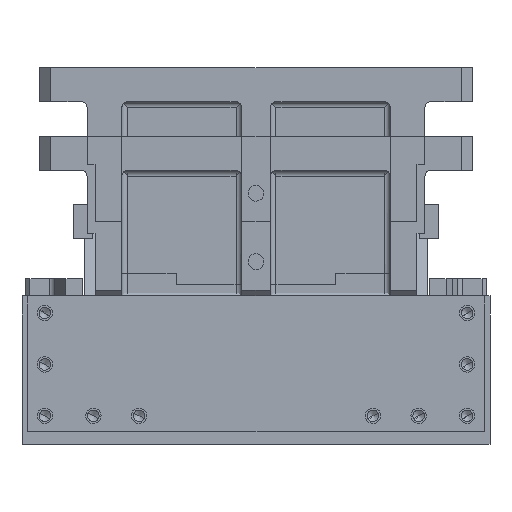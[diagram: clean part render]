
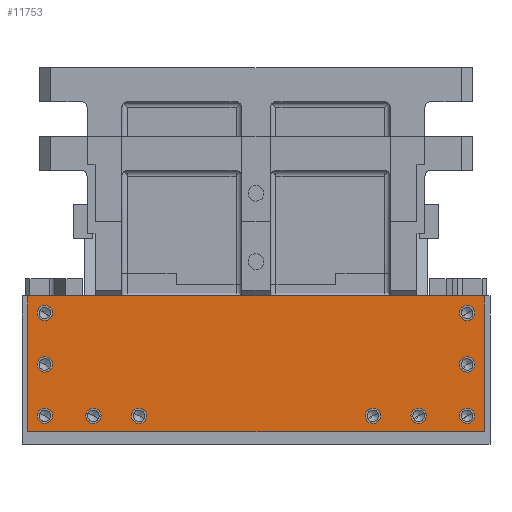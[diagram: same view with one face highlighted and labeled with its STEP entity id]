
A CAD part, left-side view. The second image highlights one B-rep face of the part: STEP entity #11753.
In plain terms, the highlighted planar face has unit normal (-1, 0, 0).
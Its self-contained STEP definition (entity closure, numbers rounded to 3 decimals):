
#9396=CARTESIAN_POINT('Vertex',(-12.,200.,130.)) ;
#9399=CARTESIAN_POINT('Line Origine',(-12.,0.,130.)) ;
#9403=CARTESIAN_POINT('Vertex',(-12.,-200.,130.)) ;
#11530=CARTESIAN_POINT('Vertex',(-12.,148.424,28.236)) ;
#11537=CARTESIAN_POINT('Vertex',(-12.,136.576,21.764)) ;
#11540=CARTESIAN_POINT('Axis2P3D Location',(-12.,142.5,25.)) ;
#11552=CARTESIAN_POINT('Axis2P3D Location',(-12.,0.,0.)) ;
#11557=CARTESIAN_POINT('Line Origine',(-12.,200.,70.5)) ;
#11561=CARTESIAN_POINT('Vertex',(-12.,200.,11.)) ;
#11564=CARTESIAN_POINT('Line Origine',(-12.,0.,11.)) ;
#11568=CARTESIAN_POINT('Vertex',(-12.,-200.,11.)) ;
#11571=CARTESIAN_POINT('Line Origine',(-12.,-200.,70.5)) ;
#11582=CARTESIAN_POINT('Axis2P3D Location',(-12.,-185.,115.)) ;
#11586=CARTESIAN_POINT('Vertex',(-12.,-179.076,111.764)) ;
#11588=CARTESIAN_POINT('Vertex',(-12.,-190.924,118.236)) ;
#11591=CARTESIAN_POINT('Axis2P3D Location',(-12.,-185.,115.)) ;
#11600=CARTESIAN_POINT('Axis2P3D Location',(-12.,-142.5,25.)) ;
#11604=CARTESIAN_POINT('Vertex',(-12.,-148.424,28.236)) ;
#11606=CARTESIAN_POINT('Vertex',(-12.,-136.576,21.764)) ;
#11609=CARTESIAN_POINT('Axis2P3D Location',(-12.,-142.5,25.)) ;
#11618=CARTESIAN_POINT('Axis2P3D Location',(-12.,-102.5,25.)) ;
#11622=CARTESIAN_POINT('Vertex',(-12.,-96.576,21.764)) ;
#11624=CARTESIAN_POINT('Vertex',(-12.,-108.424,28.236)) ;
#11627=CARTESIAN_POINT('Axis2P3D Location',(-12.,-102.5,25.)) ;
#11636=CARTESIAN_POINT('Axis2P3D Location',(-12.,-185.,70.)) ;
#11640=CARTESIAN_POINT('Vertex',(-12.,-190.924,73.236)) ;
#11642=CARTESIAN_POINT('Vertex',(-12.,-179.076,66.764)) ;
#11645=CARTESIAN_POINT('Axis2P3D Location',(-12.,-185.,70.)) ;
#11654=CARTESIAN_POINT('Axis2P3D Location',(-12.,-185.,25.)) ;
#11658=CARTESIAN_POINT('Vertex',(-12.,-190.924,28.236)) ;
#11660=CARTESIAN_POINT('Vertex',(-12.,-179.076,21.764)) ;
#11663=CARTESIAN_POINT('Axis2P3D Location',(-12.,-185.,25.)) ;
#11672=CARTESIAN_POINT('Axis2P3D Location',(-12.,185.,115.)) ;
#11676=CARTESIAN_POINT('Vertex',(-12.,179.076,111.764)) ;
#11678=CARTESIAN_POINT('Vertex',(-12.,190.924,118.236)) ;
#11681=CARTESIAN_POINT('Axis2P3D Location',(-12.,185.,115.)) ;
#11690=CARTESIAN_POINT('Axis2P3D Location',(-12.,185.,70.)) ;
#11694=CARTESIAN_POINT('Vertex',(-12.,179.076,66.764)) ;
#11696=CARTESIAN_POINT('Vertex',(-12.,190.924,73.236)) ;
#11699=CARTESIAN_POINT('Axis2P3D Location',(-12.,185.,70.)) ;
#11708=CARTESIAN_POINT('Axis2P3D Location',(-12.,185.,25.)) ;
#11712=CARTESIAN_POINT('Vertex',(-12.,190.924,28.236)) ;
#11714=CARTESIAN_POINT('Vertex',(-12.,179.076,21.764)) ;
#11717=CARTESIAN_POINT('Axis2P3D Location',(-12.,185.,25.)) ;
#11726=CARTESIAN_POINT('Axis2P3D Location',(-12.,142.5,25.)) ;
#11735=CARTESIAN_POINT('Axis2P3D Location',(-12.,102.5,25.)) ;
#11739=CARTESIAN_POINT('Vertex',(-12.,96.576,21.764)) ;
#11741=CARTESIAN_POINT('Vertex',(-12.,108.424,28.236)) ;
#11744=CARTESIAN_POINT('Axis2P3D Location',(-12.,102.5,25.)) ;
#9401=VECTOR('Line Direction',#9400,1.) ;
#11559=VECTOR('Line Direction',#11558,1.) ;
#11566=VECTOR('Line Direction',#11565,1.) ;
#11573=VECTOR('Line Direction',#11572,1.) ;
#9400=DIRECTION('Vector Direction',(0.,-1.,0.)) ;
#11541=DIRECTION('Axis2P3D Direction',(1.,0.,0.)) ;
#11553=DIRECTION('Axis2P3D Direction',(-1.,-0.,0.)) ;
#11554=DIRECTION('Axis2P3D XDirection',(0.,-1.,0.)) ;
#11558=DIRECTION('Vector Direction',(0.,0.,-1.)) ;
#11565=DIRECTION('Vector Direction',(0.,1.,0.)) ;
#11572=DIRECTION('Vector Direction',(0.,0.,-1.)) ;
#11583=DIRECTION('Axis2P3D Direction',(-1.,-0.,0.)) ;
#11592=DIRECTION('Axis2P3D Direction',(-1.,-0.,0.)) ;
#11601=DIRECTION('Axis2P3D Direction',(-1.,-0.,0.)) ;
#11610=DIRECTION('Axis2P3D Direction',(-1.,-0.,0.)) ;
#11619=DIRECTION('Axis2P3D Direction',(-1.,-0.,0.)) ;
#11628=DIRECTION('Axis2P3D Direction',(-1.,-0.,0.)) ;
#11637=DIRECTION('Axis2P3D Direction',(-1.,-0.,0.)) ;
#11646=DIRECTION('Axis2P3D Direction',(-1.,-0.,0.)) ;
#11655=DIRECTION('Axis2P3D Direction',(-1.,-0.,0.)) ;
#11664=DIRECTION('Axis2P3D Direction',(-1.,-0.,0.)) ;
#11673=DIRECTION('Axis2P3D Direction',(-1.,-0.,0.)) ;
#11682=DIRECTION('Axis2P3D Direction',(-1.,-0.,0.)) ;
#11691=DIRECTION('Axis2P3D Direction',(-1.,-0.,0.)) ;
#11700=DIRECTION('Axis2P3D Direction',(-1.,-0.,0.)) ;
#11709=DIRECTION('Axis2P3D Direction',(-1.,-0.,0.)) ;
#11718=DIRECTION('Axis2P3D Direction',(-1.,-0.,0.)) ;
#11727=DIRECTION('Axis2P3D Direction',(-1.,-0.,0.)) ;
#11736=DIRECTION('Axis2P3D Direction',(-1.,-0.,0.)) ;
#11745=DIRECTION('Axis2P3D Direction',(-1.,-0.,0.)) ;
#11542=AXIS2_PLACEMENT_3D('Circle Axis2P3D',#11540,#11541,$) ;
#11555=AXIS2_PLACEMENT_3D('Plane Axis2P3D',#11552,#11553,#11554) ;
#11584=AXIS2_PLACEMENT_3D('Circle Axis2P3D',#11582,#11583,$) ;
#11593=AXIS2_PLACEMENT_3D('Circle Axis2P3D',#11591,#11592,$) ;
#11602=AXIS2_PLACEMENT_3D('Circle Axis2P3D',#11600,#11601,$) ;
#11611=AXIS2_PLACEMENT_3D('Circle Axis2P3D',#11609,#11610,$) ;
#11620=AXIS2_PLACEMENT_3D('Circle Axis2P3D',#11618,#11619,$) ;
#11629=AXIS2_PLACEMENT_3D('Circle Axis2P3D',#11627,#11628,$) ;
#11638=AXIS2_PLACEMENT_3D('Circle Axis2P3D',#11636,#11637,$) ;
#11647=AXIS2_PLACEMENT_3D('Circle Axis2P3D',#11645,#11646,$) ;
#11656=AXIS2_PLACEMENT_3D('Circle Axis2P3D',#11654,#11655,$) ;
#11665=AXIS2_PLACEMENT_3D('Circle Axis2P3D',#11663,#11664,$) ;
#11674=AXIS2_PLACEMENT_3D('Circle Axis2P3D',#11672,#11673,$) ;
#11683=AXIS2_PLACEMENT_3D('Circle Axis2P3D',#11681,#11682,$) ;
#11692=AXIS2_PLACEMENT_3D('Circle Axis2P3D',#11690,#11691,$) ;
#11701=AXIS2_PLACEMENT_3D('Circle Axis2P3D',#11699,#11700,$) ;
#11710=AXIS2_PLACEMENT_3D('Circle Axis2P3D',#11708,#11709,$) ;
#11719=AXIS2_PLACEMENT_3D('Circle Axis2P3D',#11717,#11718,$) ;
#11728=AXIS2_PLACEMENT_3D('Circle Axis2P3D',#11726,#11727,$) ;
#11737=AXIS2_PLACEMENT_3D('Circle Axis2P3D',#11735,#11736,$) ;
#11746=AXIS2_PLACEMENT_3D('Circle Axis2P3D',#11744,#11745,$) ;
#9402=LINE('Line',#9399,#9401) ;
#11560=LINE('Line',#11557,#11559) ;
#11567=LINE('Line',#11564,#11566) ;
#11574=LINE('Line',#11571,#11573) ;
#11543=CIRCLE('generated circle',#11542,6.75) ;
#11585=CIRCLE('generated circle',#11584,6.75) ;
#11594=CIRCLE('generated circle',#11593,6.75) ;
#11603=CIRCLE('generated circle',#11602,6.75) ;
#11612=CIRCLE('generated circle',#11611,6.75) ;
#11621=CIRCLE('generated circle',#11620,6.75) ;
#11630=CIRCLE('generated circle',#11629,6.75) ;
#11639=CIRCLE('generated circle',#11638,6.75) ;
#11648=CIRCLE('generated circle',#11647,6.75) ;
#11657=CIRCLE('generated circle',#11656,6.75) ;
#11666=CIRCLE('generated circle',#11665,6.75) ;
#11675=CIRCLE('generated circle',#11674,6.75) ;
#11684=CIRCLE('generated circle',#11683,6.75) ;
#11693=CIRCLE('generated circle',#11692,6.75) ;
#11702=CIRCLE('generated circle',#11701,6.75) ;
#11711=CIRCLE('generated circle',#11710,6.75) ;
#11720=CIRCLE('generated circle',#11719,6.75) ;
#11729=CIRCLE('generated circle',#11728,6.75) ;
#11738=CIRCLE('generated circle',#11737,6.75) ;
#11747=CIRCLE('generated circle',#11746,6.75) ;
#11556=PLANE('',#11555) ;
#11599=FACE_BOUND('',#11596,.T.) ;
#11617=FACE_BOUND('',#11614,.T.) ;
#11635=FACE_BOUND('',#11632,.T.) ;
#11653=FACE_BOUND('',#11650,.T.) ;
#11671=FACE_BOUND('',#11668,.T.) ;
#11689=FACE_BOUND('',#11686,.T.) ;
#11707=FACE_BOUND('',#11704,.T.) ;
#11725=FACE_BOUND('',#11722,.T.) ;
#11734=FACE_BOUND('',#11731,.T.) ;
#11752=FACE_BOUND('',#11749,.T.) ;
#9405=EDGE_CURVE('',#9397,#9404,#9402,.T.) ;
#11544=EDGE_CURVE('',#11538,#11531,#11543,.F.) ;
#11563=EDGE_CURVE('',#9397,#11562,#11560,.T.) ;
#11570=EDGE_CURVE('',#11569,#11562,#11567,.T.) ;
#11575=EDGE_CURVE('',#9404,#11569,#11574,.T.) ;
#11590=EDGE_CURVE('',#11587,#11589,#11585,.F.) ;
#11595=EDGE_CURVE('',#11589,#11587,#11594,.F.) ;
#11608=EDGE_CURVE('',#11605,#11607,#11603,.F.) ;
#11613=EDGE_CURVE('',#11607,#11605,#11612,.F.) ;
#11626=EDGE_CURVE('',#11623,#11625,#11621,.F.) ;
#11631=EDGE_CURVE('',#11625,#11623,#11630,.F.) ;
#11644=EDGE_CURVE('',#11641,#11643,#11639,.F.) ;
#11649=EDGE_CURVE('',#11643,#11641,#11648,.F.) ;
#11662=EDGE_CURVE('',#11659,#11661,#11657,.F.) ;
#11667=EDGE_CURVE('',#11661,#11659,#11666,.F.) ;
#11680=EDGE_CURVE('',#11677,#11679,#11675,.T.) ;
#11685=EDGE_CURVE('',#11679,#11677,#11684,.T.) ;
#11698=EDGE_CURVE('',#11695,#11697,#11693,.T.) ;
#11703=EDGE_CURVE('',#11697,#11695,#11702,.T.) ;
#11716=EDGE_CURVE('',#11713,#11715,#11711,.T.) ;
#11721=EDGE_CURVE('',#11715,#11713,#11720,.T.) ;
#11730=EDGE_CURVE('',#11531,#11538,#11729,.T.) ;
#11743=EDGE_CURVE('',#11740,#11742,#11738,.T.) ;
#11748=EDGE_CURVE('',#11742,#11740,#11747,.T.) ;
#11576=EDGE_LOOP('',(#11577,#11578,#11579,#11580)) ;
#11596=EDGE_LOOP('',(#11597,#11598)) ;
#11614=EDGE_LOOP('',(#11615,#11616)) ;
#11632=EDGE_LOOP('',(#11633,#11634)) ;
#11650=EDGE_LOOP('',(#11651,#11652)) ;
#11668=EDGE_LOOP('',(#11669,#11670)) ;
#11686=EDGE_LOOP('',(#11687,#11688)) ;
#11704=EDGE_LOOP('',(#11705,#11706)) ;
#11722=EDGE_LOOP('',(#11723,#11724)) ;
#11731=EDGE_LOOP('',(#11732,#11733)) ;
#11749=EDGE_LOOP('',(#11750,#11751)) ;
#11577=ORIENTED_EDGE('',*,*,#11563,.T.) ;
#11578=ORIENTED_EDGE('',*,*,#11570,.F.) ;
#11579=ORIENTED_EDGE('',*,*,#11575,.F.) ;
#11580=ORIENTED_EDGE('',*,*,#9405,.F.) ;
#11597=ORIENTED_EDGE('',*,*,#11590,.T.) ;
#11598=ORIENTED_EDGE('',*,*,#11595,.T.) ;
#11615=ORIENTED_EDGE('',*,*,#11608,.T.) ;
#11616=ORIENTED_EDGE('',*,*,#11613,.T.) ;
#11633=ORIENTED_EDGE('',*,*,#11626,.T.) ;
#11634=ORIENTED_EDGE('',*,*,#11631,.T.) ;
#11651=ORIENTED_EDGE('',*,*,#11644,.T.) ;
#11652=ORIENTED_EDGE('',*,*,#11649,.T.) ;
#11669=ORIENTED_EDGE('',*,*,#11662,.T.) ;
#11670=ORIENTED_EDGE('',*,*,#11667,.T.) ;
#11687=ORIENTED_EDGE('',*,*,#11680,.F.) ;
#11688=ORIENTED_EDGE('',*,*,#11685,.F.) ;
#11705=ORIENTED_EDGE('',*,*,#11698,.F.) ;
#11706=ORIENTED_EDGE('',*,*,#11703,.F.) ;
#11723=ORIENTED_EDGE('',*,*,#11716,.F.) ;
#11724=ORIENTED_EDGE('',*,*,#11721,.F.) ;
#11732=ORIENTED_EDGE('',*,*,#11730,.F.) ;
#11733=ORIENTED_EDGE('',*,*,#11544,.F.) ;
#11750=ORIENTED_EDGE('',*,*,#11743,.F.) ;
#11751=ORIENTED_EDGE('',*,*,#11748,.F.) ;
#9397=VERTEX_POINT('',#9396) ;
#9404=VERTEX_POINT('',#9403) ;
#11531=VERTEX_POINT('',#11530) ;
#11538=VERTEX_POINT('',#11537) ;
#11562=VERTEX_POINT('',#11561) ;
#11569=VERTEX_POINT('',#11568) ;
#11587=VERTEX_POINT('',#11586) ;
#11589=VERTEX_POINT('',#11588) ;
#11605=VERTEX_POINT('',#11604) ;
#11607=VERTEX_POINT('',#11606) ;
#11623=VERTEX_POINT('',#11622) ;
#11625=VERTEX_POINT('',#11624) ;
#11641=VERTEX_POINT('',#11640) ;
#11643=VERTEX_POINT('',#11642) ;
#11659=VERTEX_POINT('',#11658) ;
#11661=VERTEX_POINT('',#11660) ;
#11677=VERTEX_POINT('',#11676) ;
#11679=VERTEX_POINT('',#11678) ;
#11695=VERTEX_POINT('',#11694) ;
#11697=VERTEX_POINT('',#11696) ;
#11713=VERTEX_POINT('',#11712) ;
#11715=VERTEX_POINT('',#11714) ;
#11740=VERTEX_POINT('',#11739) ;
#11742=VERTEX_POINT('',#11741) ;
#11753=ADVANCED_FACE('base',(#11581,#11599,#11617,#11635,#11653,#11671,#11689,#11707,#11725,#11734,#11752),#11556,.T.) ;
#11581=FACE_OUTER_BOUND('',#11576,.T.) ;
